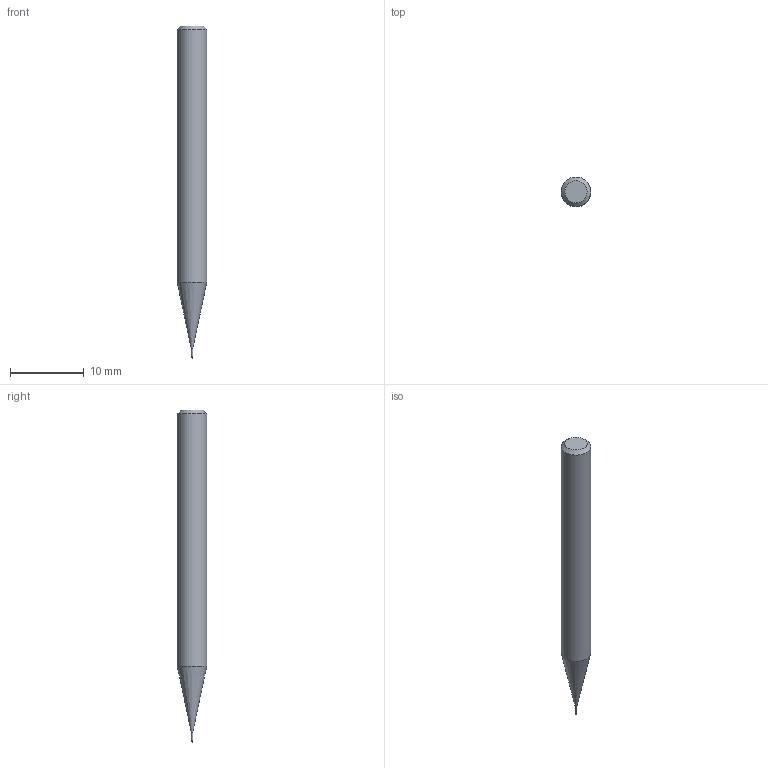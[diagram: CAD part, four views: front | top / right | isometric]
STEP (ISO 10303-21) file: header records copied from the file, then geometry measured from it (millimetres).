
FILE_DESCRIPTION((''),'2;1');
FILE_NAME('C:\Users\nsx150\AppData\Local\Temp\Mastercam 2021\3SYKECWX22\TEMP.step','2021-04-22T09:58:56',(''),(''),'STEP Write','Mastercam 2021 ... CNC Software, Inc.','');
FILE_SCHEMA(('AUTOMOTIVE_DESIGN'));
Length unit declared in the file: millimetre
Products named in the file (1): None
Bounding box: 4 x 4 x 45 mm (x, y, z)
Volume: 474.9 mm3; surface area: 506.5 mm2
Topology: 2 solids, 2 shells, 9 faces, 14 edges, 8 vertices
Faces by surface type: plane 3, cylinder 3, cone 2, sphere 1
Full cylindrical faces by diameter (mm): 0.18 x1, 0.2 x1, 4 x1
Entity records: 211 total; most frequent: DIRECTION 36, CARTESIAN_POINT 25, AXIS2_PLACEMENT_3D 18, ORIENTED_EDGE 14, EDGE_LOOP 14, STYLED_ITEM 12, ADVANCED_FACE 9, FACE_BOUND 8
